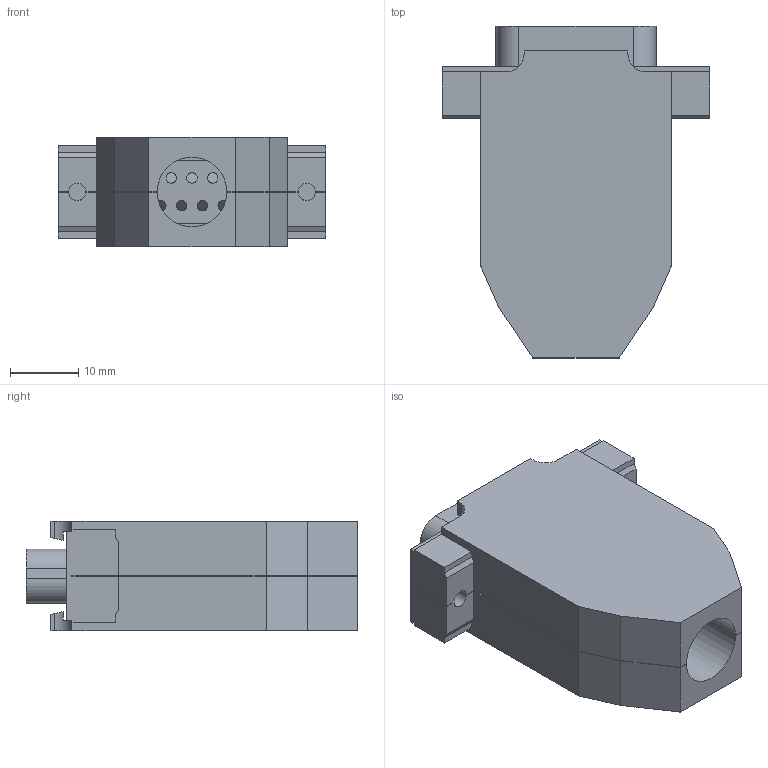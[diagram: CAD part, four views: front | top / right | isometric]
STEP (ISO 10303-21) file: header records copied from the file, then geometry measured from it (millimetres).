
FILE_DESCRIPTION((''),'2;1');
FILE_NAME('DSUB-BACKSHELL-15POS','2007-01-26T',('chrisj'),(''),'PRO/ENGINEER BY PARAMETRIC TECHNOLOGY CORPORATION, 2006080','PRO/ENGINEER BY PARAMETRIC TECHNOLOGY CORPORATION, 2006080','');
FILE_SCHEMA(('AUTOMOTIVE_DESIGN_CC2 { 1 2 10303 214 -1 1 5 2 }'));
Length unit declared in the file: inch
Products named in the file (1): DSUB-BACKSHELL-15POS
Bounding box: 39.24 x 48.64 x 16.05 mm (x, y, z)
Volume: 12307.3 mm3; surface area: 9507.1 mm2
Topology: 1 solids, 1 shells, 153 faces, 392 edges, 258 vertices
Faces by surface type: plane 99, cylinder 50, extrusion 4
Entity records: 4886 total; most frequent: CARTESIAN_POINT 1121, ORIENTED_EDGE 784, DIRECTION 734, EDGE_CURVE 392, VECTOR 272, LINE 268, VERTEX_POINT 258, AXIS2_PLACEMENT_3D 231
